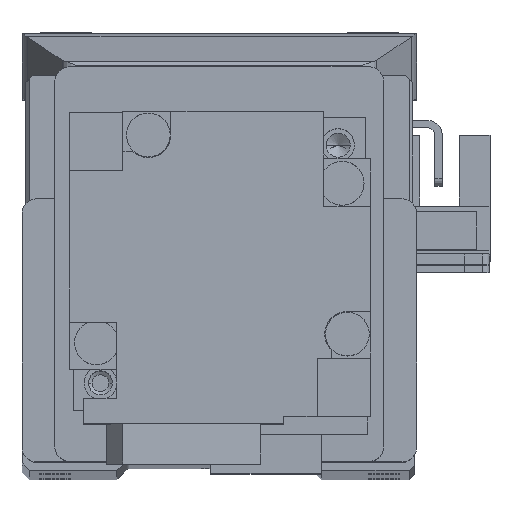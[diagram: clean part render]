
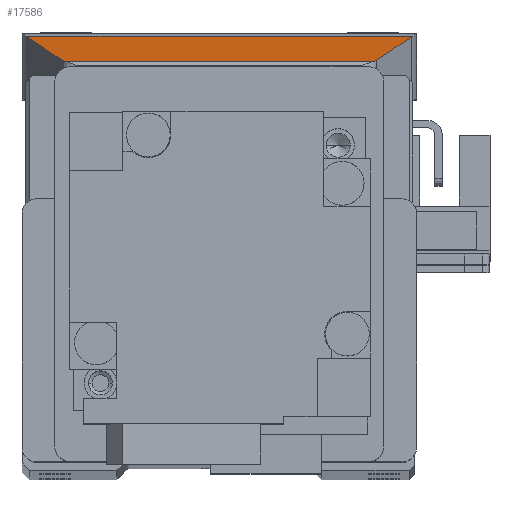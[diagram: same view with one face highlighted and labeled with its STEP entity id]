
A CAD part, top view. The second image highlights one B-rep face of the part: STEP entity #17586.
In plain terms, the highlighted planar face has unit normal (0, 0.966, 0.258).
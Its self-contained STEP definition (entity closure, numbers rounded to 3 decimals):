
#264 = DIRECTION ( 'NONE',  ( 0., -0.966, -0.258 ) ) ;
#2208 = VERTEX_POINT ( 'NONE', #30674 ) ;
#2970 = EDGE_CURVE ( 'NONE', #12918, #29693, #12375, .T. ) ;
#3174 = CARTESIAN_POINT ( 'NONE',  ( 26.418, 49.815, 44.442 ) ) ;
#3390 = CARTESIAN_POINT ( 'NONE',  ( -21.121, 46.359, 57.405 ) ) ;
#3461 = VECTOR ( 'NONE', #22375, 1000. ) ;
#3563 = CARTESIAN_POINT ( 'NONE',  ( -26.285, 49.723, 44.788 ) ) ;
#5435 = VERTEX_POINT ( 'NONE', #11805 ) ;
#5706 = CARTESIAN_POINT ( 'NONE',  ( -21.503, 46.535, 56.743 ) ) ;
#6129 = EDGE_CURVE ( 'NONE', #2208, #5435, #26417, .T. ) ;
#6961 = EDGE_CURVE ( 'NONE', #31092, #15660, #8150, .T. ) ;
#6968 = AXIS2_PLACEMENT_3D ( 'NONE', #17926, #264, #12158 ) ;
#8009 = EDGE_CURVE ( 'NONE', #10150, #12918, #32203, .T. ) ;
#8150 =( BOUNDED_CURVE ( )  B_SPLINE_CURVE ( 3, ( #17978, #26782, #3390, #9150 ),
 .UNSPECIFIED., .F., .F. ) 
 B_SPLINE_CURVE_WITH_KNOTS ( ( 4, 4 ),
 ( 1.951, 2.523 ),
 .UNSPECIFIED. ) 
 CURVE ( )  GEOMETRIC_REPRESENTATION_ITEM ( )  RATIONAL_B_SPLINE_CURVE ( ( 1., 0.973, 0.973, 1. ) ) 
 REPRESENTATION_ITEM ( '' )  );
#9150 = CARTESIAN_POINT ( 'NONE',  ( -20.806, 46.299, 57.629 ) ) ;
#10150 = VERTEX_POINT ( 'NONE', #25095 ) ;
#10343 = VERTEX_POINT ( 'NONE', #23688 ) ;
#10397 = CARTESIAN_POINT ( 'NONE',  ( 20.806, 46.299, 57.629 ) ) ;
#10651 = CARTESIAN_POINT ( 'NONE',  ( 21.36, 46.44, 57.101 ) ) ;
#10681 = DIRECTION ( 'NONE',  ( 0.361, -0.24, 0.901 ) ) ;
#11053 = CARTESIAN_POINT ( 'NONE',  ( 27., 46.299, 57.629 ) ) ;
#11805 = CARTESIAN_POINT ( 'NONE',  ( -26.285, 49.723, 44.788 ) ) ;
#12157 = LINE ( 'NONE', #11053, #3461 ) ;
#12158 = DIRECTION ( 'NONE',  ( 0., 0.258, -0.966 ) ) ;
#12252 = CARTESIAN_POINT ( 'NONE',  ( -26.477, 49.862, 44.266 ) ) ;
#12375 =( BOUNDED_CURVE ( )  B_SPLINE_CURVE ( 3, ( #17633, #29318, #3174, #26184 ),
 .UNSPECIFIED., .F., .F. ) 
 B_SPLINE_CURVE_WITH_KNOTS ( ( 4, 4 ),
 ( 4.332, 4.388 ),
 .UNSPECIFIED. ) 
 CURVE ( )  GEOMETRIC_REPRESENTATION_ITEM ( )  RATIONAL_B_SPLINE_CURVE ( ( 1., 1., 1., 1. ) ) 
 REPRESENTATION_ITEM ( '' )  );
#12918 = VERTEX_POINT ( 'NONE', #17830 ) ;
#14162 = ORIENTED_EDGE ( 'NONE', *, *, #2970, .T. ) ;
#14283 = EDGE_CURVE ( 'NONE', #10343, #10150, #27075, .T. ) ;
#14972 = CARTESIAN_POINT ( 'NONE',  ( -20.806, 46.299, 57.629 ) ) ;
#15376 = CARTESIAN_POINT ( 'NONE',  ( -26.354, 49.769, 44.616 ) ) ;
#15660 = VERTEX_POINT ( 'NONE', #14972 ) ;
#15992 = CARTESIAN_POINT ( 'NONE',  ( -14.891, 42.127, 73.273 ) ) ;
#16488 = FACE_OUTER_BOUND ( 'NONE', #34641, .T. ) ;
#17085 = ORIENTED_EDGE ( 'NONE', *, *, #29170, .T. ) ;
#17586 = ADVANCED_FACE ( 'NONE', ( #16488 ), #18465, .F. ) ;
#17633 = CARTESIAN_POINT ( 'NONE',  ( 26.285, 49.723, 44.788 ) ) ;
#17830 = CARTESIAN_POINT ( 'NONE',  ( 26.285, 49.723, 44.788 ) ) ;
#17926 = CARTESIAN_POINT ( 'NONE',  ( 27., 46.299, 57.629 ) ) ;
#17978 = CARTESIAN_POINT ( 'NONE',  ( -21.503, 46.535, 56.743 ) ) ;
#18213 = ORIENTED_EDGE ( 'NONE', *, *, #31997, .F. ) ;
#18465 = PLANE ( 'NONE',  #6968 ) ;
#21966 = EDGE_CURVE ( 'NONE', #29693, #2208, #34099, .T. ) ;
#22375 = DIRECTION ( 'NONE',  ( -1., 0., 0. ) ) ;
#22649 = VECTOR ( 'NONE', #32463, 1000. ) ;
#23688 = CARTESIAN_POINT ( 'NONE',  ( 20.806, 46.299, 57.629 ) ) ;
#23789 = CARTESIAN_POINT ( 'NONE',  ( -26.418, 49.815, 44.442 ) ) ;
#24666 = VECTOR ( 'NONE', #10681, 1000. ) ;
#25095 = CARTESIAN_POINT ( 'NONE',  ( 21.503, 46.535, 56.743 ) ) ;
#25173 = ORIENTED_EDGE ( 'NONE', *, *, #6129, .T. ) ;
#26184 = CARTESIAN_POINT ( 'NONE',  ( 26.477, 49.862, 44.266 ) ) ;
#26336 = VECTOR ( 'NONE', #29692, 1000. ) ;
#26417 =( BOUNDED_CURVE ( )  B_SPLINE_CURVE ( 3, ( #12252, #23789, #15376, #3563 ),
 .UNSPECIFIED., .F., .F. ) 
 B_SPLINE_CURVE_WITH_KNOTS ( ( 4, 4 ),
 ( 1.896, 1.951 ),
 .UNSPECIFIED. ) 
 CURVE ( )  GEOMETRIC_REPRESENTATION_ITEM ( )  RATIONAL_B_SPLINE_CURVE ( ( 1., 1., 1., 1. ) ) 
 REPRESENTATION_ITEM ( '' )  );
#26782 = CARTESIAN_POINT ( 'NONE',  ( -21.36, 46.44, 57.101 ) ) ;
#27075 =( BOUNDED_CURVE ( )  B_SPLINE_CURVE ( 3, ( #10397, #27895, #10651, #30838 ),
 .UNSPECIFIED., .F., .F. ) 
 B_SPLINE_CURVE_WITH_KNOTS ( ( 4, 4 ),
 ( 3.761, 4.332 ),
 .UNSPECIFIED. ) 
 CURVE ( )  GEOMETRIC_REPRESENTATION_ITEM ( )  RATIONAL_B_SPLINE_CURVE ( ( 1., 0.973, 0.973, 1. ) ) 
 REPRESENTATION_ITEM ( '' )  );
#27510 = CARTESIAN_POINT ( 'NONE',  ( 26.477, 49.862, 44.266 ) ) ;
#27895 = CARTESIAN_POINT ( 'NONE',  ( 21.121, 46.359, 57.405 ) ) ;
#29170 = EDGE_CURVE ( 'NONE', #5435, #31092, #34704, .T. ) ;
#29318 = CARTESIAN_POINT ( 'NONE',  ( 26.354, 49.769, 44.616 ) ) ;
#29692 = DIRECTION ( 'NONE',  ( -1., 0., 0. ) ) ;
#29693 = VERTEX_POINT ( 'NONE', #27510 ) ;
#30674 = CARTESIAN_POINT ( 'NONE',  ( -26.477, 49.862, 44.266 ) ) ;
#30838 = CARTESIAN_POINT ( 'NONE',  ( 21.503, 46.535, 56.743 ) ) ;
#31092 = VERTEX_POINT ( 'NONE', #5706 ) ;
#31997 = EDGE_CURVE ( 'NONE', #10343, #15660, #12157, .T. ) ;
#32114 = ORIENTED_EDGE ( 'NONE', *, *, #14283, .T. ) ;
#32203 = LINE ( 'NONE', #35505, #22649 ) ;
#32463 = DIRECTION ( 'NONE',  ( 0.361, 0.24, -0.901 ) ) ;
#32918 = CARTESIAN_POINT ( 'NONE',  ( 27., 49.862, 44.266 ) ) ;
#33802 = ORIENTED_EDGE ( 'NONE', *, *, #8009, .T. ) ;
#34099 = LINE ( 'NONE', #32918, #26336 ) ;
#34641 = EDGE_LOOP ( 'NONE', ( #33802, #14162, #35015, #25173, #17085, #35140, #18213, #32114 ) ) ;
#34704 = LINE ( 'NONE', #15992, #24666 ) ;
#35015 = ORIENTED_EDGE ( 'NONE', *, *, #21966, .T. ) ;
#35140 = ORIENTED_EDGE ( 'NONE', *, *, #6961, .T. ) ;
#35505 = CARTESIAN_POINT ( 'NONE',  ( 21.909, 46.806, 55.728 ) ) ;
